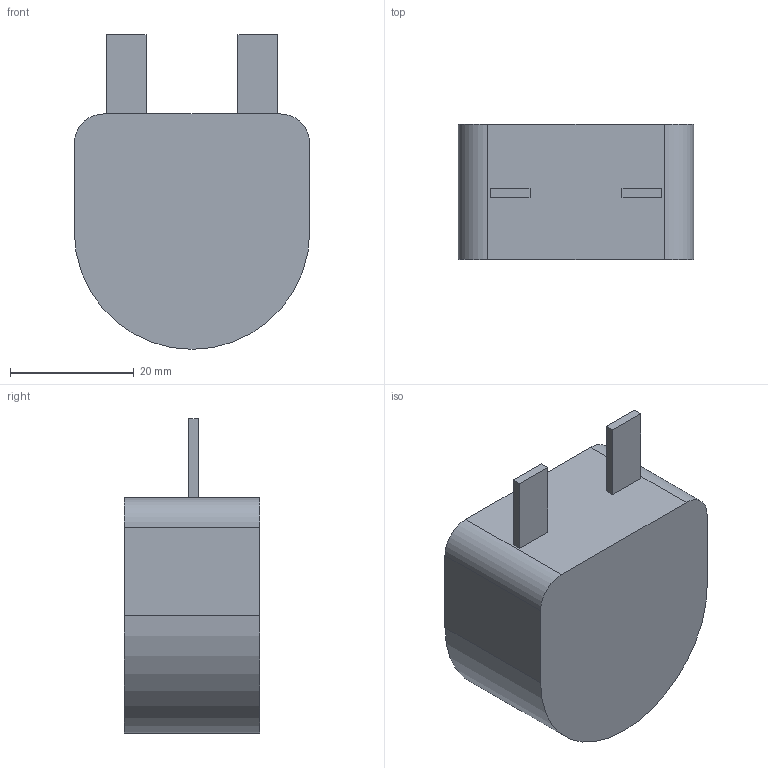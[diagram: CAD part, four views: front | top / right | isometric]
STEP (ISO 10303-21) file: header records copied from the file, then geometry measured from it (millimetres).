
FILE_DESCRIPTION (( 'STEP AP214' ), '1' );
FILE_NAME ('IHXL1500VZEB100M3A.STEP', '2025-08-07T20:59:12', ( '' ), ( '' ), 'SwSTEP 2.0', 'SolidWorks 2024', '' );
FILE_SCHEMA (( 'AUTOMOTIVE_DESIGN' ));
Length unit declared in the file: inch
Products named in the file (1): IHXL1500VZEB100M3A
Bounding box: 38.1 x 21.89 x 50.93 mm (x, y, z)
Volume: 28406.3 mm3; surface area: 5868.1 mm2
Topology: 1 solids, 1 shells, 19 faces, 45 edges, 30 vertices
Faces by surface type: plane 15, cylinder 4
Entity records: 574 total; most frequent: CARTESIAN_POINT 95, DIRECTION 93, ORIENTED_EDGE 90, EDGE_CURVE 45, VECTOR 37, LINE 37, VERTEX_POINT 30, AXIS2_PLACEMENT_3D 28
